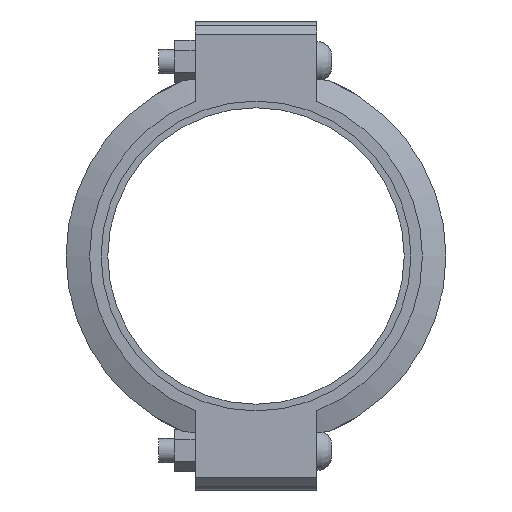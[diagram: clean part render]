
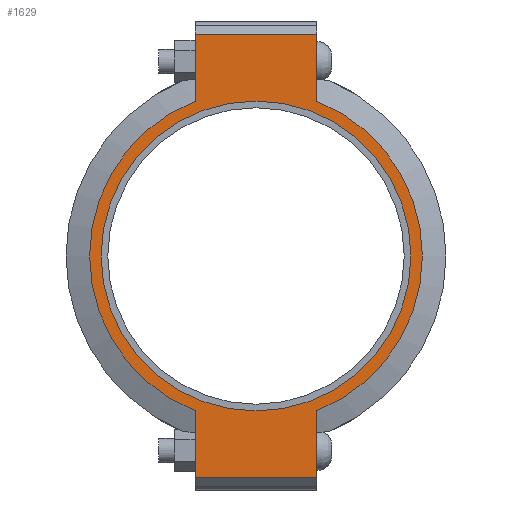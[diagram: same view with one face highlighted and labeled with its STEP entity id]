
A CAD part, left-side view. The second image highlights one B-rep face of the part: STEP entity #1629.
In plain terms, the highlighted planar face has unit normal (-1, 0, 0) as drawn and (0, 0, 1) by its records, which use the part's own axes.
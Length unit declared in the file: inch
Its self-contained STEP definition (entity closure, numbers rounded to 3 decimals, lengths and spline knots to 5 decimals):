
#200=LINE('',#2815,#289);
#211=LINE('',#2866,#300);
#217=LINE('',#2892,#306);
#219=LINE('',#2895,#308);
#220=LINE('',#2900,#309);
#221=LINE('',#2901,#310);
#289=VECTOR('',#2291,0.3937);
#300=VECTOR('',#2322,0.3937);
#306=VECTOR('',#2340,0.3937);
#308=VECTOR('',#2344,0.3937);
#309=VECTOR('',#2349,0.3937);
#310=VECTOR('',#2350,0.3937);
#372=FACE_BOUND('',#549,.T.);
#440=FACE_OUTER_BOUND('',#548,.T.);
#548=EDGE_LOOP('',(#1324,#1325,#1326,#1327,#1328,#1329,#1330,#1331));
#549=EDGE_LOOP('',(#1332));
#631=CIRCLE('',#1857,6.375);
#655=CIRCLE('',#1909,6.84375);
#656=CIRCLE('',#1910,6.84375);
#727=VERTEX_POINT('',#2641);
#768=VERTEX_POINT('',#2812);
#769=VERTEX_POINT('',#2814);
#786=VERTEX_POINT('',#2861);
#787=VERTEX_POINT('',#2865);
#794=VERTEX_POINT('',#2887);
#795=VERTEX_POINT('',#2891);
#796=VERTEX_POINT('',#2897);
#797=VERTEX_POINT('',#2899);
#891=EDGE_CURVE('',#727,#727,#631,.T.);
#948=EDGE_CURVE('',#769,#768,#200,.T.);
#969=EDGE_CURVE('',#787,#786,#211,.T.);
#980=EDGE_CURVE('',#795,#794,#217,.T.);
#982=EDGE_CURVE('',#795,#768,#219,.T.);
#983=EDGE_CURVE('',#794,#796,#655,.T.);
#984=EDGE_CURVE('',#796,#797,#220,.T.);
#985=EDGE_CURVE('',#787,#797,#221,.T.);
#986=EDGE_CURVE('',#786,#769,#656,.T.);
#1324=ORIENTED_EDGE('',*,*,#982,.F.);
#1325=ORIENTED_EDGE('',*,*,#980,.T.);
#1326=ORIENTED_EDGE('',*,*,#983,.T.);
#1327=ORIENTED_EDGE('',*,*,#984,.T.);
#1328=ORIENTED_EDGE('',*,*,#985,.F.);
#1329=ORIENTED_EDGE('',*,*,#969,.T.);
#1330=ORIENTED_EDGE('',*,*,#986,.T.);
#1331=ORIENTED_EDGE('',*,*,#948,.T.);
#1332=ORIENTED_EDGE('',*,*,#891,.T.);
#1469=PLANE('',#1908);
#1629=ADVANCED_FACE('',(#440,#372),#1469,.T.);
#1857=AXIS2_PLACEMENT_3D('',#2643,#2181,#2182);
#1908=AXIS2_PLACEMENT_3D('',#2896,#2345,#2346);
#1909=AXIS2_PLACEMENT_3D('',#2898,#2347,#2348);
#1910=AXIS2_PLACEMENT_3D('',#2902,#2351,#2352);
#2181=DIRECTION('center_axis',(0.,0.,-1.));
#2182=DIRECTION('ref_axis',(-1.,0.,0.));
#2291=DIRECTION('',(-1.,0.,0.));
#2322=DIRECTION('',(-1.,0.,0.));
#2340=DIRECTION('',(1.,0.,0.));
#2344=DIRECTION('',(0.,1.,0.));
#2345=DIRECTION('center_axis',(0.,0.,1.));
#2346=DIRECTION('ref_axis',(1.,0.,0.));
#2347=DIRECTION('center_axis',(0.,0.,1.));
#2348=DIRECTION('ref_axis',(-1.,0.,0.));
#2349=DIRECTION('',(1.,0.,0.));
#2350=DIRECTION('',(0.,-1.,0.));
#2351=DIRECTION('center_axis',(0.,0.,1.));
#2352=DIRECTION('ref_axis',(-1.,0.,0.));
#2641=CARTESIAN_POINT('',(6.375,0.,1.315));
#2643=CARTESIAN_POINT('Origin',(0.,0.,1.315));
#2812=CARTESIAN_POINT('',(-9.125,2.5,1.315));
#2814=CARTESIAN_POINT('',(-6.37079,2.5,1.315));
#2815=CARTESIAN_POINT('',(9.625,2.5,1.315));
#2861=CARTESIAN_POINT('',(6.37079,2.5,1.315));
#2865=CARTESIAN_POINT('',(9.125,2.5,1.315));
#2866=CARTESIAN_POINT('',(9.625,2.5,1.315));
#2887=CARTESIAN_POINT('',(-6.37079,-2.5,1.315));
#2891=CARTESIAN_POINT('',(-9.125,-2.5,1.315));
#2892=CARTESIAN_POINT('',(-9.625,-2.5,1.315));
#2895=CARTESIAN_POINT('',(-9.125,1.25,1.315));
#2896=CARTESIAN_POINT('Origin',(0.,0.,
1.315));
#2897=CARTESIAN_POINT('',(6.37079,-2.5,1.315));
#2898=CARTESIAN_POINT('Origin',(0.,0.,1.315));
#2899=CARTESIAN_POINT('',(9.125,-2.5,1.315));
#2900=CARTESIAN_POINT('',(-9.625,-2.5,1.315));
#2901=CARTESIAN_POINT('',(9.125,-1.25,1.315));
#2902=CARTESIAN_POINT('Origin',(0.,0.,1.315));
